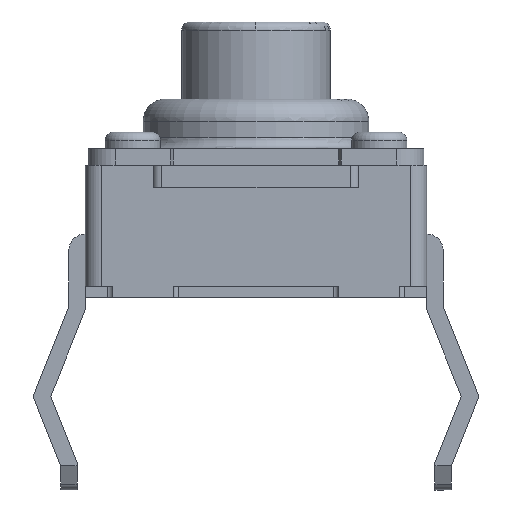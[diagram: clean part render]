
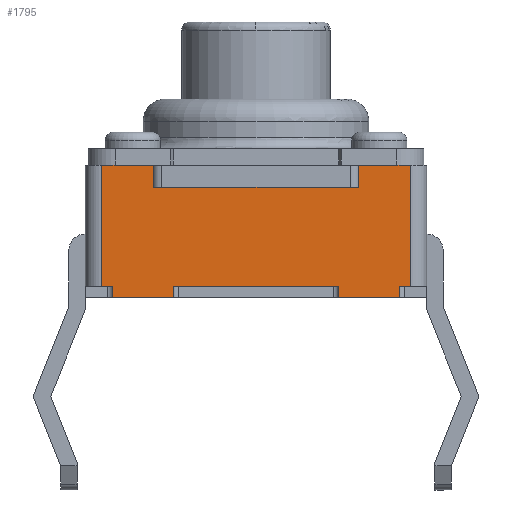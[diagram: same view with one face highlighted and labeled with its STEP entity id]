
A CAD part, front view. The second image highlights one B-rep face of the part: STEP entity #1795.
In plain terms, the highlighted planar face has unit normal (0, -1, 0).
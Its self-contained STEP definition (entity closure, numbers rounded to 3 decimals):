
#385 = CARTESIAN_POINT ( 'NONE',  ( 1.5, -3.1, 0. ) ) ;
#437 = DIRECTION ( 'NONE',  ( 1., 0., 0. ) ) ;
#438 = VECTOR ( 'NONE', #437, 1000. ) ;
#439 = CARTESIAN_POINT ( 'NONE',  ( -3.1, -3.1, 0. ) ) ;
#440 = LINE ( 'NONE', #439, #438 ) ;
#1605 = EDGE_CURVE ( 'NONE', #1622, #1623, #3881, .T. ) ;
#1606 = ORIENTED_EDGE ( 'NONE', *, *, #1629, .T. ) ;
#1607 = ORIENTED_EDGE ( 'NONE', *, *, #1612, .F. ) ;
#1610 = EDGE_CURVE ( 'NONE', #1691, #1619, #3856, .T. ) ;
#1611 = ORIENTED_EDGE ( 'NONE', *, *, #1610, .F. ) ;
#1612 = EDGE_CURVE ( 'NONE', #1619, #1616, #3855, .T. ) ;
#1613 = EDGE_CURVE ( 'NONE', #1623, #1830, #3847, .T. ) ;
#1615 = ORIENTED_EDGE ( 'NONE', *, *, #3981, .F. ) ;
#1616 = VERTEX_POINT ( 'NONE', #4353 ) ;
#1617 = ORIENTED_EDGE ( 'NONE', *, *, #1613, .F. ) ;
#1618 = ORIENTED_EDGE ( 'NONE', *, *, #2113, .T. ) ;
#1619 = VERTEX_POINT ( 'NONE', #4355 ) ;
#1621 = ORIENTED_EDGE ( 'NONE', *, *, #1818, .T. ) ;
#1622 = VERTEX_POINT ( 'NONE', #4354 ) ;
#1623 = VERTEX_POINT ( 'NONE', #4350 ) ;
#1625 = ORIENTED_EDGE ( 'NONE', *, *, #1699, .T. ) ;
#1626 = ORIENTED_EDGE ( 'NONE', *, *, #1800, .F. ) ;
#1627 = ORIENTED_EDGE ( 'NONE', *, *, #1827, .F. ) ;
#1629 = EDGE_CURVE ( 'NONE', #1622, #1616, #4349, .T. ) ;
#1630 = ORIENTED_EDGE ( 'NONE', *, *, #1605, .F. ) ;
#1631 = ORIENTED_EDGE ( 'NONE', *, *, #3580, .T. ) ;
#1684 = EDGE_CURVE ( 'NONE', #3755, #1691, #4569, .T. ) ;
#1691 = VERTEX_POINT ( 'NONE', #4543 ) ;
#1696 = EDGE_LOOP ( 'NONE', ( #1875, #1621, #1626, #1625, #1618, #1631, #1615, #1627, #1617, #1630, #1606, #1607, #1611, #1858, #1860, #1744 ) ) ;
#1699 = EDGE_CURVE ( 'NONE', #1804, #2106, #4514, .T. ) ;
#1733 = VERTEX_POINT ( 'NONE', #4475 ) ;
#1738 = EDGE_CURVE ( 'NONE', #4102, #1733, #4467, .T. ) ;
#1744 = ORIENTED_EDGE ( 'NONE', *, *, #4114, .T. ) ;
#1795 = ADVANCED_FACE ( 'NONE', ( #4704 ), #4723, .F. ) ;
#1800 = EDGE_CURVE ( 'NONE', #1804, #1808, #4700, .T. ) ;
#1804 = VERTEX_POINT ( 'NONE', #4687 ) ;
#1808 = VERTEX_POINT ( 'NONE', #4662 ) ;
#1818 = EDGE_CURVE ( 'NONE', #1733, #1808, #4596, .T. ) ;
#1827 = EDGE_CURVE ( 'NONE', #1830, #3966, #4904, .T. ) ;
#1830 = VERTEX_POINT ( 'NONE', #4777 ) ;
#1858 = ORIENTED_EDGE ( 'NONE', *, *, #1684, .F. ) ;
#1860 = ORIENTED_EDGE ( 'NONE', *, *, #3778, .F. ) ;
#1875 = ORIENTED_EDGE ( 'NONE', *, *, #1738, .T. ) ;
#2106 = VERTEX_POINT ( 'NONE', #385 ) ;
#2113 = EDGE_CURVE ( 'NONE', #2106, #3617, #440, .T. ) ;
#3580 = EDGE_CURVE ( 'NONE', #3617, #4060, #7982, .T. ) ;
#3617 = VERTEX_POINT ( 'NONE', #8341 ) ;
#3755 = VERTEX_POINT ( 'NONE', #8839 ) ;
#3764 = VERTEX_POINT ( 'NONE', #8825 ) ;
#3778 = EDGE_CURVE ( 'NONE', #3764, #3755, #8782, .T. ) ;
#3844 = DIRECTION ( 'NONE',  ( 1., 0., 0. ) ) ;
#3845 = VECTOR ( 'NONE', #3844, 1000. ) ;
#3846 = CARTESIAN_POINT ( 'NONE',  ( -3.1, -3.1, 2.4 ) ) ;
#3847 = LINE ( 'NONE', #3846, #3845 ) ;
#3849 = DIRECTION ( 'NONE',  ( 0., 0., -1. ) ) ;
#3850 = VECTOR ( 'NONE', #3849, 1000. ) ;
#3851 = DIRECTION ( 'NONE',  ( 1., 0., 0. ) ) ;
#3852 = VECTOR ( 'NONE', #3851, 1000. ) ;
#3854 = CARTESIAN_POINT ( 'NONE',  ( -1.86, -3.1, 2.4 ) ) ;
#3855 = LINE ( 'NONE', #3854, #3850 ) ;
#3856 = LINE ( 'NONE', #3857, #3852 ) ;
#3857 = CARTESIAN_POINT ( 'NONE',  ( -3.1, -3.1, 2.4 ) ) ;
#3878 = DIRECTION ( 'NONE',  ( 0., 0., 1. ) ) ;
#3879 = VECTOR ( 'NONE', #3878, 1000. ) ;
#3880 = CARTESIAN_POINT ( 'NONE',  ( 1.86, -3.1, 2.4 ) ) ;
#3881 = LINE ( 'NONE', #3880, #3879 ) ;
#3966 = VERTEX_POINT ( 'NONE', #9140 ) ;
#3981 = EDGE_CURVE ( 'NONE', #3966, #4060, #9120, .T. ) ;
#4060 = VERTEX_POINT ( 'NONE', #9292 ) ;
#4102 = VERTEX_POINT ( 'NONE', #9532 ) ;
#4114 = EDGE_CURVE ( 'NONE', #3764, #4102, #9610, .T. ) ;
#4338 = DIRECTION ( 'NONE',  ( -1., 0., 0. ) ) ;
#4347 = VECTOR ( 'NONE', #4338, 1000. ) ;
#4348 = CARTESIAN_POINT ( 'NONE',  ( -4.074, -3.1, 2. ) ) ;
#4349 = LINE ( 'NONE', #4348, #4347 ) ;
#4350 = CARTESIAN_POINT ( 'NONE',  ( 1.86, -3.1, 2.4 ) ) ;
#4353 = CARTESIAN_POINT ( 'NONE',  ( -1.86, -3.1, 2. ) ) ;
#4354 = CARTESIAN_POINT ( 'NONE',  ( 1.86, -3.1, 2. ) ) ;
#4355 = CARTESIAN_POINT ( 'NONE',  ( -1.86, -3.1, 2.4 ) ) ;
#4457 = DIRECTION ( 'NONE',  ( 1., 0., 0. ) ) ;
#4466 = VECTOR ( 'NONE', #4457, 1000. ) ;
#4467 = LINE ( 'NONE', #4474, #4466 ) ;
#4474 = CARTESIAN_POINT ( 'NONE',  ( -3.1, -3.1, 0. ) ) ;
#4475 = CARTESIAN_POINT ( 'NONE',  ( -1.5, -3.1, 0. ) ) ;
#4511 = DIRECTION ( 'NONE',  ( 0., 0., -1. ) ) ;
#4512 = VECTOR ( 'NONE', #4511, 1000. ) ;
#4513 = CARTESIAN_POINT ( 'NONE',  ( 1.5, -3.1, 0.2 ) ) ;
#4514 = LINE ( 'NONE', #4513, #4512 ) ;
#4543 = CARTESIAN_POINT ( 'NONE',  ( -2.8, -3.1, 2.4 ) ) ;
#4566 = DIRECTION ( 'NONE',  ( 0., 0., 1. ) ) ;
#4567 = VECTOR ( 'NONE', #4566, 1000. ) ;
#4568 = CARTESIAN_POINT ( 'NONE',  ( -2.8, -3.1, 2.4 ) ) ;
#4569 = LINE ( 'NONE', #4568, #4567 ) ;
#4590 = VECTOR ( 'NONE', #4612, 1000. ) ;
#4596 = LINE ( 'NONE', #4613, #4590 ) ;
#4612 = DIRECTION ( 'NONE',  ( 0., 0., 1. ) ) ;
#4613 = CARTESIAN_POINT ( 'NONE',  ( -1.5, -3.1, 0.2 ) ) ;
#4659 = DIRECTION ( 'NONE',  ( -1., 0., 0. ) ) ;
#4660 = VECTOR ( 'NONE', #4659, 1000. ) ;
#4662 = CARTESIAN_POINT ( 'NONE',  ( -1.5, -3.1, 0.2 ) ) ;
#4680 = DIRECTION ( 'NONE',  ( 0., 0., 1. ) ) ;
#4681 = DIRECTION ( 'NONE',  ( 0., 1., 0. ) ) ;
#4682 = CARTESIAN_POINT ( 'NONE',  ( -3.1, -3.1, 2.4 ) ) ;
#4687 = CARTESIAN_POINT ( 'NONE',  ( 1.5, -3.1, 0.2 ) ) ;
#4699 = CARTESIAN_POINT ( 'NONE',  ( -3.1, -3.1, 0.2 ) ) ;
#4700 = LINE ( 'NONE', #4699, #4660 ) ;
#4702 = AXIS2_PLACEMENT_3D ( 'NONE', #4682, #4681, #4680 ) ;
#4704 = FACE_OUTER_BOUND ( 'NONE', #1696, .T. ) ;
#4723 = PLANE ( 'NONE',  #4702 ) ;
#4777 = CARTESIAN_POINT ( 'NONE',  ( 2.8, -3.1, 2.4 ) ) ;
#4780 = DIRECTION ( 'NONE',  ( 0., 0., -1. ) ) ;
#4781 = VECTOR ( 'NONE', #4780, 1000. ) ;
#4782 = CARTESIAN_POINT ( 'NONE',  ( 2.8, -3.1, 2.4 ) ) ;
#4904 = LINE ( 'NONE', #4782, #4781 ) ;
#7979 = DIRECTION ( 'NONE',  ( 0., 0., 1. ) ) ;
#7980 = VECTOR ( 'NONE', #7979, 1000. ) ;
#7981 = CARTESIAN_POINT ( 'NONE',  ( 2.6, -3.1, 0.2 ) ) ;
#7982 = LINE ( 'NONE', #7981, #7980 ) ;
#8341 = CARTESIAN_POINT ( 'NONE',  ( 2.6, -3.1, 0. ) ) ;
#8779 = DIRECTION ( 'NONE',  ( -1., 0., 0. ) ) ;
#8780 = VECTOR ( 'NONE', #8779, 1000. ) ;
#8781 = CARTESIAN_POINT ( 'NONE',  ( -2.6, -3.1, 0.2 ) ) ;
#8782 = LINE ( 'NONE', #8781, #8780 ) ;
#8825 = CARTESIAN_POINT ( 'NONE',  ( -2.6, -3.1, 0.2 ) ) ;
#8839 = CARTESIAN_POINT ( 'NONE',  ( -2.8, -3.1, 0.2 ) ) ;
#9090 = DIRECTION ( 'NONE',  ( -1., 0., 0. ) ) ;
#9091 = VECTOR ( 'NONE', #9090, 1000. ) ;
#9119 = CARTESIAN_POINT ( 'NONE',  ( 2.6, -3.1, 0.2 ) ) ;
#9120 = LINE ( 'NONE', #9119, #9091 ) ;
#9140 = CARTESIAN_POINT ( 'NONE',  ( 2.8, -3.1, 0.2 ) ) ;
#9292 = CARTESIAN_POINT ( 'NONE',  ( 2.6, -3.1, 0.2 ) ) ;
#9532 = CARTESIAN_POINT ( 'NONE',  ( -2.6, -3.1, 0. ) ) ;
#9536 = CARTESIAN_POINT ( 'NONE',  ( -2.6, -3.1, 0.2 ) ) ;
#9604 = DIRECTION ( 'NONE',  ( 0., 0., -1. ) ) ;
#9610 = LINE ( 'NONE', #9536, #9634 ) ;
#9634 = VECTOR ( 'NONE', #9604, 1000. ) ;
